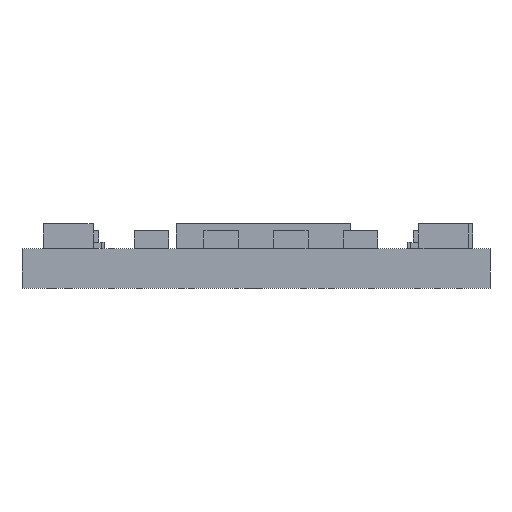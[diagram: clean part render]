
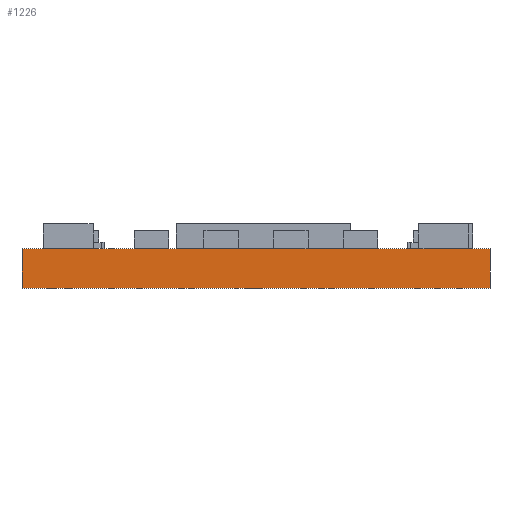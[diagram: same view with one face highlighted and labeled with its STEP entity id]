
A CAD part, front view. The second image highlights one B-rep face of the part: STEP entity #1226.
In plain terms, the highlighted planar face has unit normal (0, -1, 0).
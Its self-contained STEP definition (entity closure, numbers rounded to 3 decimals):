
#15=DIRECTION('',(1.,0.,0.));
#16=VECTOR('',#15,18.8);
#17=CARTESIAN_POINT('',(-9.4,-9.4,0.));
#18=LINE('',#17,#16);
#332=DIRECTION('',(0.,0.,1.));
#333=VECTOR('',#332,1.6);
#334=CARTESIAN_POINT('',(-9.4,-9.4,0.));
#335=LINE('',#334,#333);
#353=DIRECTION('',(0.,0.,1.));
#354=VECTOR('',#353,1.6);
#355=CARTESIAN_POINT('',(9.4,-9.4,0.));
#356=LINE('',#355,#354);
#360=DIRECTION('',(1.,0.,0.));
#361=VECTOR('',#360,18.8);
#362=CARTESIAN_POINT('',(-9.4,-9.4,1.6));
#363=LINE('',#362,#361);
#928=CARTESIAN_POINT('',(-9.4,-9.4,0.));
#929=CARTESIAN_POINT('',(9.4,-9.4,0.));
#930=VERTEX_POINT('',#928);
#931=VERTEX_POINT('',#929);
#936=CARTESIAN_POINT('',(-9.4,-9.4,1.6));
#937=CARTESIAN_POINT('',(9.4,-9.4,1.6));
#938=VERTEX_POINT('',#936);
#939=VERTEX_POINT('',#937);
#1212=CARTESIAN_POINT('',(-9.4,-9.4,0.));
#1213=DIRECTION('',(0.,-1.,0.));
#1214=DIRECTION('',(1.,0.,0.));
#1215=AXIS2_PLACEMENT_3D('',#1212,#1213,#1214);
#1216=PLANE('',#1215);
#1217=ORIENTED_EDGE('',*,*,#1093,.F.);
#1219=ORIENTED_EDGE('',*,*,#1218,.T.);
#1221=ORIENTED_EDGE('',*,*,#1220,.T.);
#1223=ORIENTED_EDGE('',*,*,#1222,.F.);
#1224=EDGE_LOOP('',(#1217,#1219,#1221,#1223));
#1225=FACE_OUTER_BOUND('',#1224,.F.);
#1093=EDGE_CURVE('',#930,#931,#18,.T.);
#1218=EDGE_CURVE('',#930,#938,#335,.T.);
#1220=EDGE_CURVE('',#938,#939,#363,.T.);
#1222=EDGE_CURVE('',#931,#939,#356,.T.);
#1226=ADVANCED_FACE('',(#1225),#1216,.T.);
